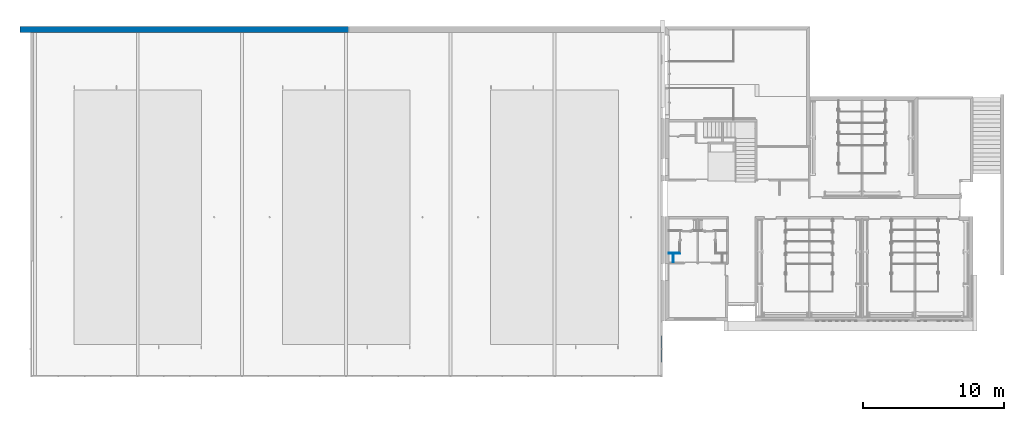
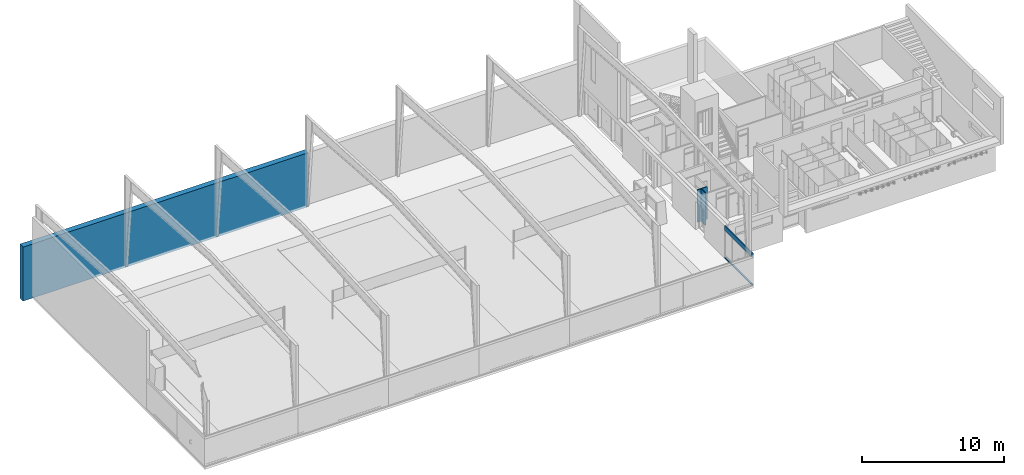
# One storey, part 2 of 45: 4 walls, 1 opening.
"""IFC2X3 building model written with IfcOpenShell, lengths in metres."""

from ifc_helpers import new_model, entity, si_unit, converted_unit, money_unit, direction, frame, origin_with_axes, place, context, subcontext, project, spatial, polyline, outline, extrude, material, layer, layer_set, layer_usage, type_object, element, save


model = new_model("IFC2X3")

# Units and contexts
model_context = context("Model", 3, precision=1e-05, world=origin_with_axes(), true_north=direction((0.0, 1.0)))
body_context = subcontext(model_context, "Body", "Model", "MODEL_VIEW")
ifc_project = project(units=[si_unit("LENGTHUNIT", "METRE"), si_unit("AREAUNIT", "SQUARE_METRE"), si_unit("VOLUMEUNIT", "CUBIC_METRE"), converted_unit("PLANEANGLEUNIT", "DEGREE", entity("IfcPlaneAngleMeasure", 0.0174532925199), si_unit("PLANEANGLEUNIT", "RADIAN"), dimensions=[0, 0, 0, 0, 0, 0, 0]), si_unit("SOLIDANGLEUNIT", "STERADIAN"), money_unit("EUR"), converted_unit("TIMEUNIT", "Year", entity("IfcTimeMeasure", 31556926.0), si_unit("TIMEUNIT", "SECOND"), dimensions=[0, 0, 0, 0, 0, 0, 0]), si_unit("MASSUNIT", "GRAM"), si_unit("THERMODYNAMICTEMPERATUREUNIT", "DEGREE_CELSIUS"), si_unit("LUMINOUSINTENSITYUNIT", "LUMEN")], contexts=[model_context])

# Site, building, storey
site_placement = place(None, origin_with_axes())
site = spatial("IfcSite", under=ifc_project, at=site_placement, Name="Site", CompositionType="ELEMENT")
building_placement = place(site_placement, origin_with_axes())
building = spatial("IfcBuilding", under=site, at=building_placement, Name="Bâtiment", CompositionType="ELEMENT")
storey_placement = place(building_placement, origin_with_axes())
storey = spatial("IfcBuildingStorey", under=building, at=storey_placement, Name="NIVEAU BAS GYMNASE", CompositionType="ELEMENT", Elevation=0.0)

# Walls
ifc_material_1 = material(Name="Hachure solide* 3962059836")
ifc_layer_1 = layer(ifc_material_1, 0.07, ventilated="UNKNOWN")
ifc_layer_set_1 = layer_set([ifc_layer_1], Name="Hachure solide* 3962059836 0.07")
ifc_layer_usage_1 = layer_usage(ifc_layer_set_1, "AXIS2", "POSITIVE", -0.07)
wall_type_1 = type_object("IfcWallType", Name="Hachure solide* 3962059836 70", PredefinedType="NOTDEFINED")
wall_1_placement = place(storey_placement, frame((45.738457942, 10.7156830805, 0.0), z_axis=(0.0, 0.0, 1.0), x_axis=(1.0, 0.0, 0.0)))
element("IfcWallStandardCase", 1, at=wall_1_placement, inside=storey, type_object=wall_type_1, material=ifc_layer_usage_1, Name="Mur-004", context=body_context, shape_type="SweptSolid", body=[
    extrude(outline(polyline([(0.0, -0.07), (0.8, -0.07), (0.73, 0.0), (0.0, 0.0), (0.0, -0.07)])), origin_with_axes(), (0.0, 0.0, 1.0), 2.8),
])
ifc_layer_usage_2 = layer_usage(ifc_layer_set_1, "AXIS2", "POSITIVE", -0.07)
wall_2_placement = place(storey_placement, frame((46.0931562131, 10.7156830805, 0.0), z_axis=(0.0, 0.0, 1.0), x_axis=(0.0, -1.0, 0.0)))
element("IfcWallStandardCase", 2, at=wall_2_placement, inside=storey, type_object=wall_type_1, material=ifc_layer_usage_2, Name="Mur-004", context=body_context, shape_type="SweptSolid", body=[
    extrude(outline(polyline([(0.07, -0.07), (0.676867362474, -0.07), (0.676867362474, 0.0), (0.07, 0.0), (0.07, -0.07)])), origin_with_axes(), (0.0, 0.0, 1.0), 2.8),
])

# Wall, opening
ifc_material_2 = material(Name="Acier 2556372607")
ifc_layer_2 = layer(ifc_material_2, 0.1, ventilated="UNKNOWN")
ifc_layer_set_2 = layer_set([ifc_layer_2], Name="Acier 2556372607 0.1")
ifc_layer_usage_3 = layer_usage(ifc_layer_set_2, "AXIS2", "POSITIVE", 0.0)
wall_type_2 = type_object("IfcWallType", Name="Acier 2556372607 100", PredefinedType="NOTDEFINED")
wall_3_placement = place(storey_placement, frame((45.278457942, 1.92911584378, 0.0), z_axis=(0.0, 0.0, 1.0), x_axis=(0.0, 1.0, 0.0)))
wall_3 = element("IfcWallStandardCase", 3, at=wall_3_placement, inside=storey, type_object=wall_type_2, material=ifc_layer_usage_3, Name="Mur-002", context=body_context, shape_type="SweptSolid", body=[
    extrude(outline(polyline([(0.0, 0.0), (3.9396998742, 0.0), (3.9396998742, 0.1), (0.1, 0.1), (0.0, 0.0)])), origin_with_axes(), (0.0, 0.0, 1.0), 2.8),
])
opening_placement = place(wall_3_placement, frame((1.9698499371, 0.0, 0.1), z_axis=(0.0, 0.0, 1.0), x_axis=(1.0, 0.0, 0.0)))
element("IfcOpeningElement", 4, at=opening_placement, cuts=wall_3, Name="Por-022", context=body_context, shape_type="SweptSolid", body=[
    extrude(outline(polyline([(1.96985, -2.32), (1.96985, 0.0), (-1.96985, 0.0), (-1.96985, -2.32), (1.96985, -2.32)])), frame((0.0, 0.0, 0.0), z_axis=(0.0, -1.0, 0.0), x_axis=(-1.0, 0.0, 0.0)), (0.0, 0.0, 1.0), 0.1),
    extrude(outline(polyline([(1.96985, 0.0), (1.96985, 2.32), (-1.96985, 2.32), (-1.96985, 0.0), (1.96985, 0.0)])), frame((0.0, 0.0, 0.0), z_axis=(0.0, 1.0, 0.0), x_axis=(-1.0, 0.0, 0.0)), (0.0, 0.0, 1.0), 0.1),
])

# Wall
ifc_material_3 = material(Name="Hachure solide* 3919599173")
ifc_layer_3 = layer(ifc_material_3, 0.45, ventilated="UNKNOWN")
ifc_layer_set_3 = layer_set([ifc_layer_3], Name="Hachure solide* 3919599173 0.45")
ifc_layer_usage_4 = layer_usage(ifc_layer_set_3, "AXIS2", "POSITIVE", 0.0)
wall_type_3 = type_object("IfcWallType", Name="Hachure solide* 3919599173 450", PredefinedType="NOTDEFINED")
wall_4_placement = place(storey_placement, frame((-0.187710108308, 26.2891158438, -0.2), z_axis=(0.0, 0.0, 1.0), x_axis=(1.0, 0.0, 0.0)))
element("IfcWallStandardCase", 5, at=wall_4_placement, inside=storey, type_object=wall_type_3, material=ifc_layer_usage_4, Name="Mur-002", context=body_context, shape_type="SweptSolid", body=[
    extrude(outline(polyline([(0.0, 0.0), (23.2363286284, 0.0), (23.2363286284, 0.45), (0.0, 0.45), (0.0, 0.0)])), origin_with_axes(), (0.0, 0.0, 1.0), 4.66),
])

save(model, "model.ifc")
